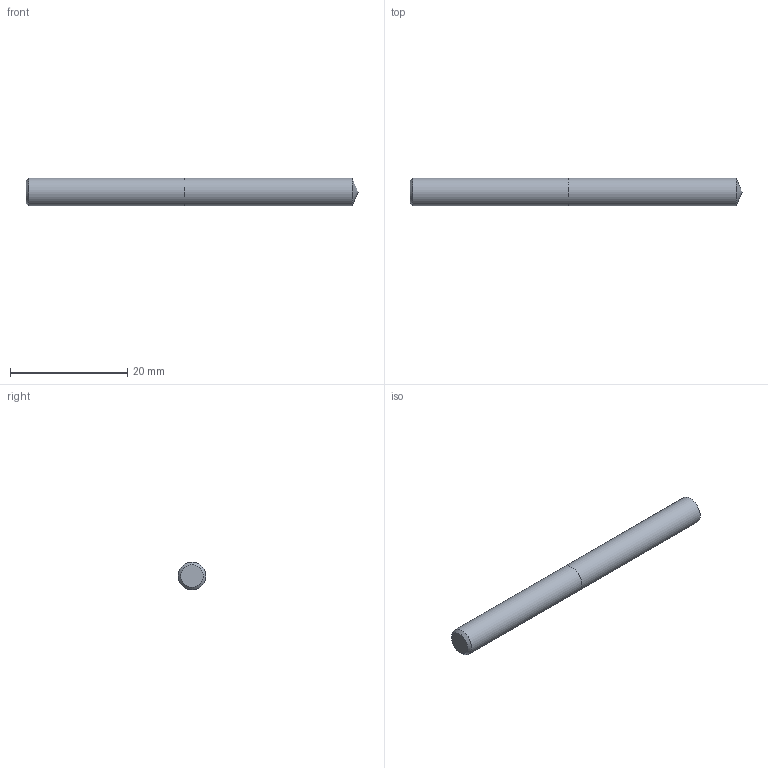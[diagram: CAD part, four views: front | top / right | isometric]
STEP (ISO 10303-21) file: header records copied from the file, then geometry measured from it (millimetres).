
FILE_DESCRIPTION (( 'STEP AP214' ), '1' );
FILE_NAME ('03-2411.STEP', '2022-06-03T07:24:52', ( 'USER' ), ( '' ), 'SwSTEP 2.0', 'SolidWorks 2018', '' );
FILE_SCHEMA (( 'AUTOMOTIVE_DESIGN' ));
Length unit declared in the file: inch
Products named in the file (1): 03-2411
Bounding box: 56.55 x 4.76 x 4.76 mm (x, y, z)
Volume: 994.1 mm3; surface area: 899.6 mm2
Topology: 2 solids, 2 shells, 7 faces, 11 edges, 7 vertices
Faces by surface type: plane 3, cylinder 2, cone 2
Full cylindrical faces by diameter (mm): 4.763 x2
Entity records: 214 total; most frequent: DIRECTION 26, CARTESIAN_POINT 18, AXIS2_PLACEMENT_3D 13, ORIENTED_EDGE 10, EDGE_LOOP 10, FACE_OUTER_BOUND 9, ADVANCED_FACE 7, DIMENSIONAL_EXPONENTS 7
